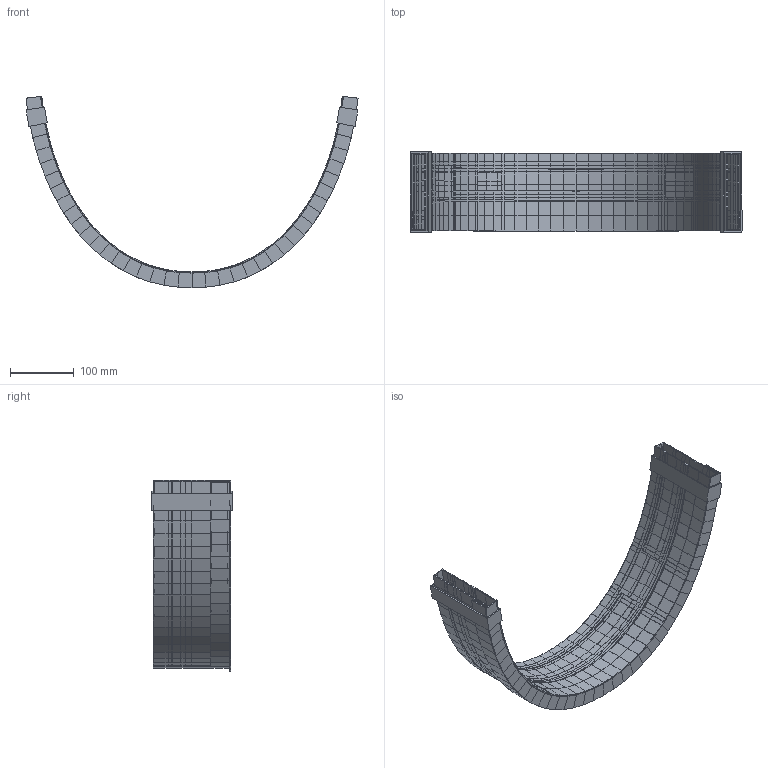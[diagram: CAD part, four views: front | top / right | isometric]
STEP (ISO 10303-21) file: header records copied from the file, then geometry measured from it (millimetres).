
FILE_DESCRIPTION(('AVO Performance Horse - montaje de la cincha (B-rep poliedrico)'),'2;1');
FILE_NAME('Funda','2026-11-15T12:00:00',('AVO Performance Horse'),('AVO Performance Horse'),'avo_cad.py','avo_cad.py (numpy)','');
FILE_SCHEMA(('AUTOMOTIVE_DESIGN { 1 0 10303 214 1 1 1 1 }'));
Length unit declared in the file: millimetre
Products named in the file (1): Funda
Bounding box: 522.26 x 126.4 x 300.88 mm (x, y, z)
Volume: 580019.1 mm3; surface area: 803698.1 mm2
Topology: 16 solids, 16 shells, 4707 faces, 9433 edges, 4734 vertices
Faces by surface type: plane 4707
Entity records: 82725 total; most frequent: ORIENTED_EDGE 18866, VECTOR 9433, LINE 9433, EDGE_CURVE 9433, CARTESIAN_POINT 4735, VERTEX_POINT 4734, EDGE_LOOP 4711, AXIS2_PLACEMENT_3D 4708
